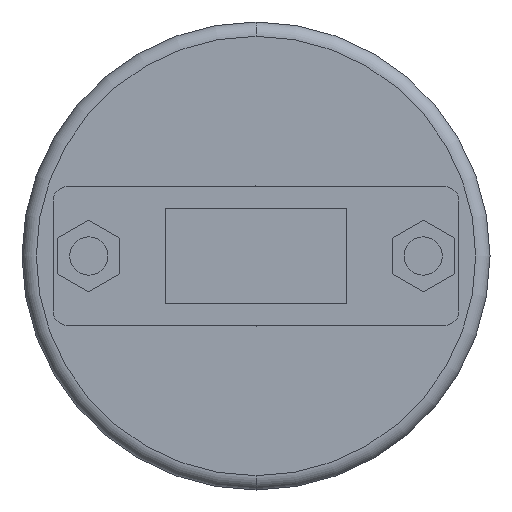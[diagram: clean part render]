
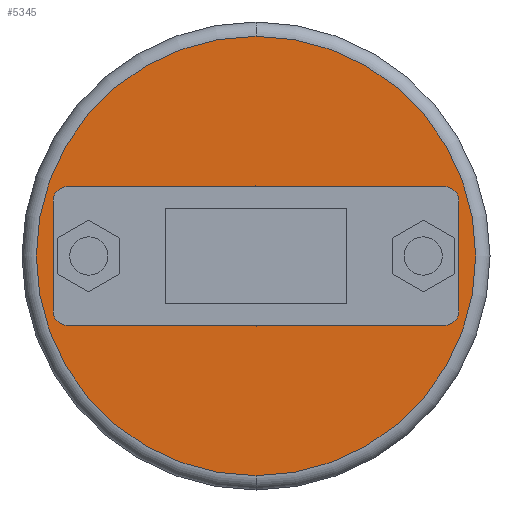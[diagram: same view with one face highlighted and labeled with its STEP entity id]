
A CAD part, front view. The second image highlights one B-rep face of the part: STEP entity #5345.
In plain terms, the highlighted planar face has unit normal (0, -1, 0).
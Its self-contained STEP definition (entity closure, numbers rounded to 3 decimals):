
#213 = PLANE ( 'NONE',  #5239 ) ;
#279 = ORIENTED_EDGE ( 'NONE', *, *, #3473, .T. ) ;
#293 = FACE_BOUND ( 'NONE', #4623, .T. ) ;
#351 = DIRECTION ( 'NONE',  ( 0., -1., 0. ) ) ;
#378 = DIRECTION ( 'NONE',  ( 0., 0., 1. ) ) ;
#421 = AXIS2_PLACEMENT_3D ( 'NONE', #2551, #4602, #5072 ) ;
#471 = EDGE_LOOP ( 'NONE', ( #2504, #3646 ) ) ;
#483 = CARTESIAN_POINT ( 'NONE',  ( 0., 88.5, 0. ) ) ;
#505 = VERTEX_POINT ( 'NONE', #2779 ) ;
#576 = VERTEX_POINT ( 'NONE', #4135 ) ;
#655 = EDGE_LOOP ( 'NONE', ( #2248, #3730 ) ) ;
#989 = ORIENTED_EDGE ( 'NONE', *, *, #3866, .F. ) ;
#1063 = CARTESIAN_POINT ( 'NONE',  ( -35., 88.5, -6. ) ) ;
#1102 = CIRCLE ( 'NONE', #4964, 6. ) ;
#1162 = CIRCLE ( 'NONE', #4154, 6. ) ;
#1183 = CARTESIAN_POINT ( 'NONE',  ( -35., 88.5, 0. ) ) ;
#1199 = VERTEX_POINT ( 'NONE', #1063 ) ;
#1233 = CARTESIAN_POINT ( 'NONE',  ( -35., 88.5, 6. ) ) ;
#1422 = FACE_BOUND ( 'NONE', #1613, .T. ) ;
#1432 = DIRECTION ( 'NONE',  ( 0., 0., 1. ) ) ;
#1551 = EDGE_CURVE ( 'NONE', #4550, #576, #4397, .T. ) ;
#1613 = EDGE_LOOP ( 'NONE', ( #989, #3562 ) ) ;
#1829 = FACE_OUTER_BOUND ( 'NONE', #655, .T. ) ;
#1835 = DIRECTION ( 'NONE',  ( 0., -1., 0. ) ) ;
#2046 = CARTESIAN_POINT ( 'NONE',  ( 35., 88.5, 0. ) ) ;
#2073 = DIRECTION ( 'NONE',  ( 0., 0., 1. ) ) ;
#2136 = AXIS2_PLACEMENT_3D ( 'NONE', #3397, #1835, #4266 ) ;
#2164 = CARTESIAN_POINT ( 'NONE',  ( 35., 88.5, 6. ) ) ;
#2178 = AXIS2_PLACEMENT_3D ( 'NONE', #4273, #4673, #1432 ) ;
#2205 = CARTESIAN_POINT ( 'NONE',  ( 0., 88.5, -46. ) ) ;
#2248 = ORIENTED_EDGE ( 'NONE', *, *, #4538, .T. ) ;
#2499 = CARTESIAN_POINT ( 'NONE',  ( 0., 88.5, 9. ) ) ;
#2504 = ORIENTED_EDGE ( 'NONE', *, *, #3861, .F. ) ;
#2551 = CARTESIAN_POINT ( 'NONE',  ( 0., 88.5, 0. ) ) ;
#2647 = AXIS2_PLACEMENT_3D ( 'NONE', #1183, #351, #378 ) ;
#2660 = AXIS2_PLACEMENT_3D ( 'NONE', #483, #4510, #2073 ) ;
#2779 = CARTESIAN_POINT ( 'NONE',  ( 0., 88.5, 46. ) ) ;
#2869 = VERTEX_POINT ( 'NONE', #3027 ) ;
#2910 = DIRECTION ( 'NONE',  ( 0., 1., 0. ) ) ;
#2968 = CARTESIAN_POINT ( 'NONE',  ( -35., 88.5, 0. ) ) ;
#3027 = CARTESIAN_POINT ( 'NONE',  ( 0., 88.5, -9. ) ) ;
#3041 = EDGE_CURVE ( 'NONE', #3911, #1199, #1162, .T. ) ;
#3249 = DIRECTION ( 'NONE',  ( 0., -1., 0. ) ) ;
#3301 = DIRECTION ( 'NONE',  ( 0., 0., 1. ) ) ;
#3327 = ORIENTED_EDGE ( 'NONE', *, *, #5218, .T. ) ;
#3397 = CARTESIAN_POINT ( 'NONE',  ( 0., 88.5, 0. ) ) ;
#3462 = FACE_BOUND ( 'NONE', #471, .T. ) ;
#3473 = EDGE_CURVE ( 'NONE', #2869, #3970, #4875, .T. ) ;
#3562 = ORIENTED_EDGE ( 'NONE', *, *, #3041, .F. ) ;
#3569 = DIRECTION ( 'NONE',  ( 0., 1., 0. ) ) ;
#3646 = ORIENTED_EDGE ( 'NONE', *, *, #1551, .F. ) ;
#3730 = ORIENTED_EDGE ( 'NONE', *, *, #4863, .T. ) ;
#3861 = EDGE_CURVE ( 'NONE', #576, #4550, #1102, .T. ) ;
#3866 = EDGE_CURVE ( 'NONE', #1199, #3911, #5226, .T. ) ;
#3911 = VERTEX_POINT ( 'NONE', #1233 ) ;
#3970 = VERTEX_POINT ( 'NONE', #2499 ) ;
#4094 = VERTEX_POINT ( 'NONE', #2205 ) ;
#4111 = DIRECTION ( 'NONE',  ( 0., 0., 1. ) ) ;
#4134 = CARTESIAN_POINT ( 'NONE',  ( 0., 88.5, 0. ) ) ;
#4135 = CARTESIAN_POINT ( 'NONE',  ( 35., 88.5, -6. ) ) ;
#4154 = AXIS2_PLACEMENT_3D ( 'NONE', #2968, #4593, #4111 ) ;
#4266 = DIRECTION ( 'NONE',  ( 0., 0., 1. ) ) ;
#4270 = CIRCLE ( 'NONE', #2136, 46. ) ;
#4273 = CARTESIAN_POINT ( 'NONE',  ( 35., 88.5, 0. ) ) ;
#4314 = DIRECTION ( 'NONE',  ( 0., 0., 1. ) ) ;
#4397 = CIRCLE ( 'NONE', #2178, 6. ) ;
#4452 = CIRCLE ( 'NONE', #2660, 9. ) ;
#4510 = DIRECTION ( 'NONE',  ( 0., 1., 0. ) ) ;
#4538 = EDGE_CURVE ( 'NONE', #505, #4094, #5056, .T. ) ;
#4550 = VERTEX_POINT ( 'NONE', #2164 ) ;
#4593 = DIRECTION ( 'NONE',  ( 0., -1., 0. ) ) ;
#4602 = DIRECTION ( 'NONE',  ( 0., -1., 0. ) ) ;
#4623 = EDGE_LOOP ( 'NONE', ( #279, #3327 ) ) ;
#4673 = DIRECTION ( 'NONE',  ( 0., -1., 0. ) ) ;
#4742 = CARTESIAN_POINT ( 'NONE',  ( 0., 88.5, 0. ) ) ;
#4863 = EDGE_CURVE ( 'NONE', #4094, #505, #4270, .T. ) ;
#4875 = CIRCLE ( 'NONE', #5046, 9. ) ;
#4905 = DIRECTION ( 'NONE',  ( 0., 0., 1. ) ) ;
#4964 = AXIS2_PLACEMENT_3D ( 'NONE', #2046, #3249, #3301 ) ;
#5046 = AXIS2_PLACEMENT_3D ( 'NONE', #4134, #2910, #4905 ) ;
#5056 = CIRCLE ( 'NONE', #421, 46. ) ;
#5072 = DIRECTION ( 'NONE',  ( 0., 0., 1. ) ) ;
#5218 = EDGE_CURVE ( 'NONE', #3970, #2869, #4452, .T. ) ;
#5226 = CIRCLE ( 'NONE', #2647, 6. ) ;
#5239 = AXIS2_PLACEMENT_3D ( 'NONE', #4742, #3569, #4314 ) ;
#5345 = ADVANCED_FACE ( 'NONE', ( #1829, #3462, #1422, #293 ), #213, .F. ) ;
